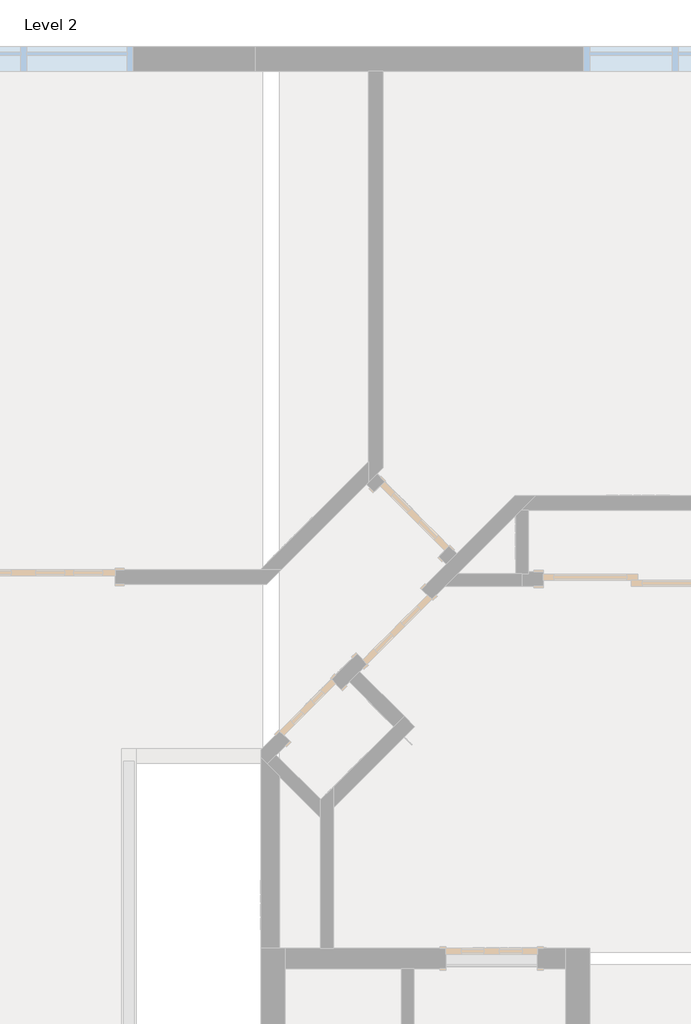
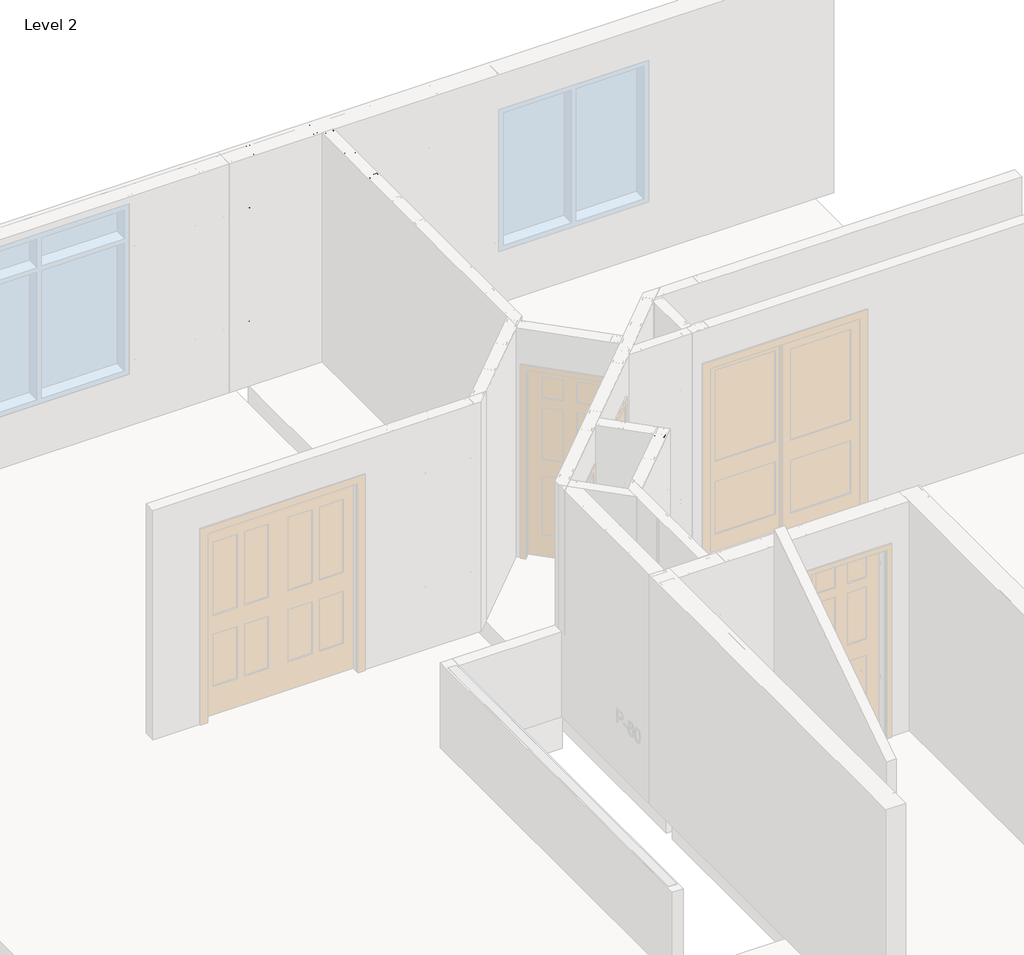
# One storey, part 38 of 46: 6 columns, 1 fastener.
"""IFC4 building model written with IfcOpenShell, lengths in millimetres."""

from ifc_helpers import new_model, si_unit, point, frame, origin, place, context, project, spatial, circle_curve, ellipse_curve, trimmed, transform, mapped, element, save
from ifc_brep_helpers import plane_surface, extruded_surface, advanced_brep
from components import panellabel_d99a6170

model = new_model("IFC4")

# Units and contexts
model_context = context("Model", 3, world=origin())
ifc_project = project(units=[si_unit("LENGTHUNIT", "METRE", prefix="MILLI")], contexts=[model_context])

# Site, building, storey
site = spatial("IfcSite", under=ifc_project)
building = spatial("IfcBuilding", under=site)
storey = spatial("IfcBuildingStorey", under=building, Name="Level 2", Elevation=3060.7)

# Columns
placement = place(None, origin())
element("IfcColumn", 1, ObjectType="BIMSF-SSMA-S-Column : 350NF150-33", at=placement, inside=storey, context=model_context, shape_type="AdvancedBrep", body=[
    advanced_brep(
    [(-8208.0235524, 13865.352221, 3061.5929687), (-8119.1235524, 13865.352221, 3061.5929687), (-8119.1235524, 13827.252221, 3061.5929687), (-8124.7810682, 13827.252221, 3061.5929687), (-8124.7810682, 13828.1345367, 3061.5929687), (-8120.0058682, 13828.1345367, 3061.5929687), (-8120.0058682, 13864.4699052, 3061.5929687), (-8207.1412366, 13864.4699052, 3061.5929687), (-8207.1412366, 13828.1345367, 3061.5929687), (-8202.3660366, 13828.1345367, 3061.5929687), (-8202.3660366, 13827.252221, 3061.5929687), (-8208.0235524, 13827.252221, 3061.5929687), (-8208.0235524, 13865.352221, 5523.6070313), (-8119.1235524, 13865.352221, 5523.6070313), (-8150.8735524, 13865.352221, 3671.1929688), (-8176.2735524, 13865.352221, 3671.1929688), (-8150.8735524, 13865.352221, 4890.3929687), (-8176.2735524, 13865.352221, 4890.3929687), (-8119.1235524, 13827.252221, 5523.6070313), (-8124.7810682, 13827.252221, 5523.6070313), (-8124.7810682, 13828.1345367, 5523.6070313), (-8120.0058682, 13828.1345367, 5523.6070313), (-8120.0058682, 13864.4699052, 5523.6070313), (-8207.1412366, 13864.4699052, 5523.6070313), (-8176.2735524, 13864.4699052, 3671.1929688), (-8150.8735524, 13864.4699052, 3671.1929688), (-8176.2735524, 13864.4699052, 4890.3929687), (-8150.8735524, 13864.4699052, 4890.3929687), (-8207.1412366, 13828.1345367, 5523.6070313), (-8202.3660366, 13828.1345367, 5523.6070313), (-8202.3660366, 13827.252221, 5523.6070313), (-8208.0235524, 13827.252221, 5523.6070313)],
    [
        (0, 1),
        (1, 2),
        (2, 3),
        (3, 4),
        (4, 5),
        (5, 6),
        (6, 7),
        (7, 8),
        (8, 9),
        (9, 10),
        (10, 11),
        (11, 0),
        (0, 12),
        (12, 13),
        (13, 1),
        (14, 15, circle_curve(frame((-8163.5735524, 13865.352221, 3671.1929688), z_axis=(0.0, -1.0, 0.0), x_axis=(1.0, 0.0, 0.0)), 12.7)),
        (15, 14, circle_curve(frame((-8163.5735524, 13865.352221, 3671.1929688), z_axis=(0.0, -1.0, 0.0), x_axis=(1.0, 0.0, 0.0)), 12.7)),
        (16, 17, circle_curve(frame((-8163.5735524, 13865.352221, 4890.3929687), z_axis=(0.0, -1.0, 0.0), x_axis=(1.0, 0.0, 0.0)), 12.7)),
        (17, 16, circle_curve(frame((-8163.5735524, 13865.352221, 4890.3929687), z_axis=(0.0, -1.0, 0.0), x_axis=(1.0, 0.0, 0.0)), 12.7)),
        (13, 18),
        (18, 2),
        (18, 19),
        (19, 3),
        (19, 20),
        (20, 4),
        (20, 21),
        (21, 5),
        (21, 22),
        (22, 6),
        (22, 23),
        (23, 7),
        (24, 25, circle_curve(frame((-8163.5735524, 13864.4699052, 3671.1929688), z_axis=(0.0, 1.0, 0.0), x_axis=(1.0, 0.0, 0.0)), 12.7)),
        (25, 24, circle_curve(frame((-8163.5735524, 13864.4699052, 3671.1929688), z_axis=(0.0, 1.0, 0.0), x_axis=(1.0, 0.0, 0.0)), 12.7)),
        (26, 27, circle_curve(frame((-8163.5735524, 13864.4699052, 4890.3929687), z_axis=(0.0, 1.0, 0.0), x_axis=(1.0, 0.0, 0.0)), 12.7)),
        (27, 26, circle_curve(frame((-8163.5735524, 13864.4699052, 4890.3929687), z_axis=(0.0, 1.0, 0.0), x_axis=(1.0, 0.0, 0.0)), 12.7)),
        (23, 28),
        (28, 8),
        (28, 29),
        (29, 9),
        (29, 30),
        (30, 10),
        (30, 31),
        (31, 11),
        (31, 12),
        (24, 15),
        (14, 25),
        (26, 17),
        (16, 27),
    ],
    [
        plane_surface(frame((-8208.0235524, 13865.352221, 3061.5929687), z_axis=(0.0, 0.0, -1.0), x_axis=(0.0, 1.0, 0.0))),
        plane_surface(frame((-8119.1235524, 13865.352221, 5523.6070313), z_axis=(0.0, 1.0, 0.0), x_axis=(0.0, 0.0, -1.0))),
        plane_surface(frame((-8119.1235524, 13827.252221, 5523.6070313), z_axis=(1.0, 0.0, 0.0), x_axis=(0.0, 0.0, -1.0))),
        plane_surface(frame((-8124.7810682, 13827.252221, 5523.6070313), z_axis=(0.0, -1.0, 0.0), x_axis=(0.0, 0.0, -1.0))),
        plane_surface(frame((-8124.7810682, 13828.1345367, 5523.6070313), z_axis=(-1.0, 0.0, 0.0), x_axis=(0.0, 0.0, -1.0))),
        plane_surface(frame((-8120.0058682, 13828.1345367, 5523.6070313), z_axis=(0.0, 1.0, 0.0), x_axis=(0.0, 0.0, -1.0))),
        plane_surface(frame((-8120.0058682, 13864.4699052, 5523.6070313), z_axis=(-1.0, 0.0, 0.0), x_axis=(0.0, 0.0, -1.0))),
        plane_surface(frame((-8207.1412366, 13864.4699052, 5523.6070313), z_axis=(0.0, -1.0, 0.0), x_axis=(0.0, 0.0, -1.0))),
        plane_surface(frame((-8207.1412366, 13828.1345367, 5523.6070313), z_axis=(1.0, 0.0, 0.0), x_axis=(0.0, 0.0, -1.0))),
        plane_surface(frame((-8202.3660366, 13828.1345367, 5523.6070313), z_axis=(0.0, 1.0, 0.0), x_axis=(0.0, 0.0, -1.0))),
        plane_surface(frame((-8202.3660366, 13827.252221, 5523.6070313), z_axis=(1.0, 0.0, 0.0), x_axis=(0.0, 0.0, -1.0))),
        plane_surface(frame((-8208.0235524, 13827.252221, 5523.6070313), z_axis=(0.0, -1.0, 0.0), x_axis=(0.0, 0.0, -1.0))),
        plane_surface(frame((-8208.0235524, 13865.352221, 5523.6070313), z_axis=(-1.0, 0.0, 0.0), x_axis=(0.0, 0.0, -1.0))),
        plane_surface(frame((-8208.0235524, 13865.352221, 5523.6070313), z_axis=(0.0, 0.0, 1.0), x_axis=(0.0, -1.0, 0.0))),
        extruded_surface(trimmed(ellipse_curve(frame((-8163.5735524, 11384.2881585, 3671.1929688), z_axis=(0.0, 1.0, 0.0), x_axis=(1.0, 0.0, 0.0)), 12.7, 12.7), [point((-8176.2735524, 11384.2881585, 3671.1929688))], [point((-8150.8735524, 11384.2881585, 3671.1929688))], True, "CARTESIAN"), (0.0, -4924.028125, 0.0), 4924.028125),
        extruded_surface(trimmed(ellipse_curve(frame((-8163.5735524, 11384.2881585, 3671.1929688), z_axis=(0.0, 1.0, 0.0), x_axis=(1.0, 0.0, 0.0)), 12.7, 12.7), [point((-8150.8735524, 11384.2881585, 3671.1929688))], [point((-8176.2735524, 11384.2881585, 3671.1929688))], True, "CARTESIAN"), (0.0, -4924.028125, 0.0), 4924.028125),
        extruded_surface(trimmed(ellipse_curve(frame((-8163.5735524, 11384.2881585, 4890.3929687), z_axis=(0.0, 1.0, 0.0), x_axis=(1.0, 0.0, 0.0)), 12.7, 12.7), [point((-8176.2735524, 11384.2881585, 4890.3929687))], [point((-8150.8735524, 11384.2881585, 4890.3929687))], True, "CARTESIAN"), (0.0, -4924.028125, 0.0), 4924.028125),
        extruded_surface(trimmed(ellipse_curve(frame((-8163.5735524, 11384.2881585, 4890.3929687), z_axis=(0.0, 1.0, 0.0), x_axis=(1.0, 0.0, 0.0)), 12.7, 12.7), [point((-8150.8735524, 11384.2881585, 4890.3929687))], [point((-8176.2735524, 11384.2881585, 4890.3929687))], True, "CARTESIAN"), (0.0, -4924.028125, 0.0), 4924.028125),
    ],
    [
        (0, [[1, 2, 3, 4, 5, 6, 7, 8, 9, 10, 11, 12]]),
        (1, [[-1, 13, 14, 15], [16, 17], [18, 19]]),
        (2, [[-2, -15, 20, 21]]),
        (3, [[-3, -21, 22, 23]]),
        (4, [[-4, -23, 24, 25]]),
        (5, [[-5, -25, 26, 27]]),
        (6, [[-6, -27, 28, 29]]),
        (7, [[-7, -29, 30, 31], [32, 33], [34, 35]]),
        (8, [[-8, -31, 36, 37]]),
        (9, [[-9, -37, 38, 39]]),
        (10, [[-10, -39, 40, 41]]),
        (11, [[-11, -41, 42, 43]]),
        (12, [[-12, -43, 44, -13]]),
        (13, [[-14, -44, -42, -40, -38, -36, -30, -28, -26, -24, -22, -20]]),
        (14, [[45, -16, 46, -32]]),
        (15, [[-45, -33, -46, -17]]),
        (16, [[47, -18, 48, -34]]),
        (17, [[-47, -35, -48, -19]]),
    ],
),
])
element("IfcColumn", 2, ObjectType="BIMSF-SSMA-S-Column : 350NF150-33", at=placement, inside=storey, context=model_context, shape_type="AdvancedBrep", body=[
    advanced_brep(
    [(-8208.0235524, 13478.002221, 3061.5929687), (-8119.1235524, 13478.002221, 3061.5929687), (-8119.1235524, 13439.902221, 3061.5929687), (-8124.7810682, 13439.902221, 3061.5929687), (-8124.7810682, 13440.7845367, 3061.5929687), (-8120.0058682, 13440.7845367, 3061.5929687), (-8120.0058682, 13477.1199052, 3061.5929687), (-8207.1412366, 13477.1199052, 3061.5929687), (-8207.1412366, 13440.7845367, 3061.5929687), (-8202.3660366, 13440.7845367, 3061.5929687), (-8202.3660366, 13439.902221, 3061.5929687), (-8208.0235524, 13439.902221, 3061.5929687), (-8208.0235524, 13478.002221, 5523.6070313), (-8119.1235524, 13478.002221, 5523.6070313), (-8150.8735524, 13478.002221, 3671.1929688), (-8176.2735524, 13478.002221, 3671.1929688), (-8150.8735524, 13478.002221, 4890.3929687), (-8176.2735524, 13478.002221, 4890.3929687), (-8119.1235524, 13439.902221, 5523.6070313), (-8124.7810682, 13439.902221, 5523.6070313), (-8124.7810682, 13440.7845367, 5523.6070313), (-8120.0058682, 13440.7845367, 5523.6070313), (-8120.0058682, 13477.1199052, 5523.6070313), (-8207.1412366, 13477.1199052, 5523.6070313), (-8176.2735524, 13477.1199052, 3671.1929688), (-8150.8735524, 13477.1199052, 3671.1929688), (-8176.2735524, 13477.1199052, 4890.3929687), (-8150.8735524, 13477.1199052, 4890.3929687), (-8207.1412366, 13440.7845367, 5523.6070313), (-8202.3660366, 13440.7845367, 5523.6070313), (-8202.3660366, 13439.902221, 5523.6070313), (-8208.0235524, 13439.902221, 5523.6070313)],
    [
        (0, 1),
        (1, 2),
        (2, 3),
        (3, 4),
        (4, 5),
        (5, 6),
        (6, 7),
        (7, 8),
        (8, 9),
        (9, 10),
        (10, 11),
        (11, 0),
        (0, 12),
        (12, 13),
        (13, 1),
        (14, 15, circle_curve(frame((-8163.5735524, 13478.002221, 3671.1929688), z_axis=(0.0, -1.0, 0.0), x_axis=(1.0, 0.0, 0.0)), 12.7)),
        (15, 14, circle_curve(frame((-8163.5735524, 13478.002221, 3671.1929688), z_axis=(0.0, -1.0, 0.0), x_axis=(1.0, 0.0, 0.0)), 12.7)),
        (16, 17, circle_curve(frame((-8163.5735524, 13478.002221, 4890.3929687), z_axis=(0.0, -1.0, 0.0), x_axis=(1.0, 0.0, 0.0)), 12.7)),
        (17, 16, circle_curve(frame((-8163.5735524, 13478.002221, 4890.3929687), z_axis=(0.0, -1.0, 0.0), x_axis=(1.0, 0.0, 0.0)), 12.7)),
        (13, 18),
        (18, 2),
        (18, 19),
        (19, 3),
        (19, 20),
        (20, 4),
        (20, 21),
        (21, 5),
        (21, 22),
        (22, 6),
        (22, 23),
        (23, 7),
        (24, 25, circle_curve(frame((-8163.5735524, 13477.1199052, 3671.1929688), z_axis=(0.0, 1.0, 0.0), x_axis=(1.0, 0.0, 0.0)), 12.7)),
        (25, 24, circle_curve(frame((-8163.5735524, 13477.1199052, 3671.1929688), z_axis=(0.0, 1.0, 0.0), x_axis=(1.0, 0.0, 0.0)), 12.7)),
        (26, 27, circle_curve(frame((-8163.5735524, 13477.1199052, 4890.3929687), z_axis=(0.0, 1.0, 0.0), x_axis=(1.0, 0.0, 0.0)), 12.7)),
        (27, 26, circle_curve(frame((-8163.5735524, 13477.1199052, 4890.3929687), z_axis=(0.0, 1.0, 0.0), x_axis=(1.0, 0.0, 0.0)), 12.7)),
        (23, 28),
        (28, 8),
        (28, 29),
        (29, 9),
        (29, 30),
        (30, 10),
        (30, 31),
        (31, 11),
        (31, 12),
        (24, 15),
        (14, 25),
        (26, 17),
        (16, 27),
    ],
    [
        plane_surface(frame((-8208.0235524, 13478.002221, 3061.5929687), z_axis=(0.0, 0.0, -1.0), x_axis=(0.0, 1.0, 0.0))),
        plane_surface(frame((-8119.1235524, 13478.002221, 5523.6070313), z_axis=(0.0, 1.0, 0.0), x_axis=(0.0, 0.0, -1.0))),
        plane_surface(frame((-8119.1235524, 13439.902221, 5523.6070313), z_axis=(1.0, 0.0, 0.0), x_axis=(0.0, 0.0, -1.0))),
        plane_surface(frame((-8124.7810682, 13439.902221, 5523.6070313), z_axis=(0.0, -1.0, 0.0), x_axis=(0.0, 0.0, -1.0))),
        plane_surface(frame((-8124.7810682, 13440.7845367, 5523.6070313), z_axis=(-1.0, 0.0, 0.0), x_axis=(0.0, 0.0, -1.0))),
        plane_surface(frame((-8120.0058682, 13440.7845367, 5523.6070313), z_axis=(0.0, 1.0, 0.0), x_axis=(0.0, 0.0, -1.0))),
        plane_surface(frame((-8120.0058682, 13477.1199052, 5523.6070313), z_axis=(-1.0, 0.0, 0.0), x_axis=(0.0, 0.0, -1.0))),
        plane_surface(frame((-8207.1412366, 13477.1199052, 5523.6070313), z_axis=(0.0, -1.0, 0.0), x_axis=(0.0, 0.0, -1.0))),
        plane_surface(frame((-8207.1412366, 13440.7845367, 5523.6070313), z_axis=(1.0, 0.0, 0.0), x_axis=(0.0, 0.0, -1.0))),
        plane_surface(frame((-8202.3660366, 13440.7845367, 5523.6070313), z_axis=(0.0, 1.0, 0.0), x_axis=(0.0, 0.0, -1.0))),
        plane_surface(frame((-8202.3660366, 13439.902221, 5523.6070313), z_axis=(1.0, 0.0, 0.0), x_axis=(0.0, 0.0, -1.0))),
        plane_surface(frame((-8208.0235524, 13439.902221, 5523.6070313), z_axis=(0.0, -1.0, 0.0), x_axis=(0.0, 0.0, -1.0))),
        plane_surface(frame((-8208.0235524, 13478.002221, 5523.6070313), z_axis=(-1.0, 0.0, 0.0), x_axis=(0.0, 0.0, -1.0))),
        plane_surface(frame((-8208.0235524, 13478.002221, 5523.6070313), z_axis=(0.0, 0.0, 1.0), x_axis=(0.0, -1.0, 0.0))),
        extruded_surface(trimmed(ellipse_curve(frame((-8163.5735524, 10996.9381585, 3671.1929688), z_axis=(0.0, 1.0, 0.0), x_axis=(1.0, 0.0, 0.0)), 12.7, 12.7), [point((-8176.2735524, 10996.9381585, 3671.1929688))], [point((-8150.8735524, 10996.9381585, 3671.1929688))], True, "CARTESIAN"), (0.0, -4924.028124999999, 0.0), 4924.028124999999),
        extruded_surface(trimmed(ellipse_curve(frame((-8163.5735524, 10996.9381585, 3671.1929688), z_axis=(0.0, 1.0, 0.0), x_axis=(1.0, 0.0, 0.0)), 12.7, 12.7), [point((-8150.8735524, 10996.9381585, 3671.1929688))], [point((-8176.2735524, 10996.9381585, 3671.1929688))], True, "CARTESIAN"), (0.0, -4924.028124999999, 0.0), 4924.028124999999),
        extruded_surface(trimmed(ellipse_curve(frame((-8163.5735524, 10996.9381585, 4890.3929687), z_axis=(0.0, 1.0, 0.0), x_axis=(1.0, 0.0, 0.0)), 12.7, 12.7), [point((-8176.2735524, 10996.9381585, 4890.3929687))], [point((-8150.8735524, 10996.9381585, 4890.3929687))], True, "CARTESIAN"), (0.0, -4924.028124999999, 0.0), 4924.028124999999),
        extruded_surface(trimmed(ellipse_curve(frame((-8163.5735524, 10996.9381585, 4890.3929687), z_axis=(0.0, 1.0, 0.0), x_axis=(1.0, 0.0, 0.0)), 12.7, 12.7), [point((-8150.8735524, 10996.9381585, 4890.3929687))], [point((-8176.2735524, 10996.9381585, 4890.3929687))], True, "CARTESIAN"), (0.0, -4924.028124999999, 0.0), 4924.028124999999),
    ],
    [
        (0, [[1, 2, 3, 4, 5, 6, 7, 8, 9, 10, 11, 12]]),
        (1, [[-1, 13, 14, 15], [16, 17], [18, 19]]),
        (2, [[-2, -15, 20, 21]]),
        (3, [[-3, -21, 22, 23]]),
        (4, [[-4, -23, 24, 25]]),
        (5, [[-5, -25, 26, 27]]),
        (6, [[-6, -27, 28, 29]]),
        (7, [[-7, -29, 30, 31], [32, 33], [34, 35]]),
        (8, [[-8, -31, 36, 37]]),
        (9, [[-9, -37, 38, 39]]),
        (10, [[-10, -39, 40, 41]]),
        (11, [[-11, -41, 42, 43]]),
        (12, [[-12, -43, 44, -13]]),
        (13, [[-14, -44, -42, -40, -38, -36, -30, -28, -26, -24, -22, -20]]),
        (14, [[45, -16, 46, -32]]),
        (15, [[-45, -33, -46, -17]]),
        (16, [[47, -18, 48, -34]]),
        (17, [[-47, -35, -48, -19]]),
    ],
),
])
element("IfcColumn", 3, ObjectType="BIMSF-SSMA-S-Column : 350NF150-33", at=placement, inside=storey, context=model_context, shape_type="AdvancedBrep", body=[
    advanced_brep(
    [(-8208.0235524, 13071.602221, 3061.5929687), (-8119.1235524, 13071.602221, 3061.5929687), (-8119.1235524, 13033.502221, 3061.5929687), (-8124.7810682, 13033.502221, 3061.5929687), (-8124.7810682, 13034.3845367, 3061.5929687), (-8120.0058682, 13034.3845367, 3061.5929687), (-8120.0058682, 13070.7199052, 3061.5929687), (-8207.1412366, 13070.7199052, 3061.5929687), (-8207.1412366, 13034.3845367, 3061.5929687), (-8202.3660366, 13034.3845367, 3061.5929687), (-8202.3660366, 13033.502221, 3061.5929687), (-8208.0235524, 13033.502221, 3061.5929687), (-8208.0235524, 13071.602221, 5523.6070313), (-8119.1235524, 13071.602221, 5523.6070313), (-8150.8735524, 13071.602221, 3671.1929688), (-8176.2735524, 13071.602221, 3671.1929688), (-8150.8735524, 13071.602221, 4890.3929687), (-8176.2735524, 13071.602221, 4890.3929687), (-8119.1235524, 13033.502221, 5523.6070313), (-8124.7810682, 13033.502221, 5523.6070313), (-8124.7810682, 13034.3845367, 5523.6070313), (-8120.0058682, 13034.3845367, 5523.6070313), (-8120.0058682, 13070.7199052, 5523.6070313), (-8207.1412366, 13070.7199052, 5523.6070313), (-8176.2735524, 13070.7199052, 3671.1929688), (-8150.8735524, 13070.7199052, 3671.1929688), (-8176.2735524, 13070.7199052, 4890.3929687), (-8150.8735524, 13070.7199052, 4890.3929687), (-8207.1412366, 13034.3845367, 5523.6070313), (-8202.3660366, 13034.3845367, 5523.6070313), (-8202.3660366, 13033.502221, 5523.6070313), (-8208.0235524, 13033.502221, 5523.6070313)],
    [
        (0, 1),
        (1, 2),
        (2, 3),
        (3, 4),
        (4, 5),
        (5, 6),
        (6, 7),
        (7, 8),
        (8, 9),
        (9, 10),
        (10, 11),
        (11, 0),
        (0, 12),
        (12, 13),
        (13, 1),
        (14, 15, circle_curve(frame((-8163.5735524, 13071.602221, 3671.1929688), z_axis=(0.0, -1.0, 0.0), x_axis=(1.0, 0.0, 0.0)), 12.7)),
        (15, 14, circle_curve(frame((-8163.5735524, 13071.602221, 3671.1929688), z_axis=(0.0, -1.0, 0.0), x_axis=(1.0, 0.0, 0.0)), 12.7)),
        (16, 17, circle_curve(frame((-8163.5735524, 13071.602221, 4890.3929687), z_axis=(0.0, -1.0, 0.0), x_axis=(1.0, 0.0, 0.0)), 12.7)),
        (17, 16, circle_curve(frame((-8163.5735524, 13071.602221, 4890.3929687), z_axis=(0.0, -1.0, 0.0), x_axis=(1.0, 0.0, 0.0)), 12.7)),
        (13, 18),
        (18, 2),
        (18, 19),
        (19, 3),
        (19, 20),
        (20, 4),
        (20, 21),
        (21, 5),
        (21, 22),
        (22, 6),
        (22, 23),
        (23, 7),
        (24, 25, circle_curve(frame((-8163.5735524, 13070.7199052, 3671.1929688), z_axis=(0.0, 1.0, 0.0), x_axis=(1.0, 0.0, 0.0)), 12.7)),
        (25, 24, circle_curve(frame((-8163.5735524, 13070.7199052, 3671.1929688), z_axis=(0.0, 1.0, 0.0), x_axis=(1.0, 0.0, 0.0)), 12.7)),
        (26, 27, circle_curve(frame((-8163.5735524, 13070.7199052, 4890.3929687), z_axis=(0.0, 1.0, 0.0), x_axis=(1.0, 0.0, 0.0)), 12.7)),
        (27, 26, circle_curve(frame((-8163.5735524, 13070.7199052, 4890.3929687), z_axis=(0.0, 1.0, 0.0), x_axis=(1.0, 0.0, 0.0)), 12.7)),
        (23, 28),
        (28, 8),
        (28, 29),
        (29, 9),
        (29, 30),
        (30, 10),
        (30, 31),
        (31, 11),
        (31, 12),
        (24, 15),
        (14, 25),
        (26, 17),
        (16, 27),
    ],
    [
        plane_surface(frame((-8208.0235524, 13071.602221, 3061.5929687), z_axis=(0.0, 0.0, -1.0), x_axis=(0.0, 1.0, 0.0))),
        plane_surface(frame((-8119.1235524, 13071.602221, 5523.6070313), z_axis=(0.0, 1.0, 0.0), x_axis=(0.0, 0.0, -1.0))),
        plane_surface(frame((-8119.1235524, 13033.502221, 5523.6070313), z_axis=(1.0, 0.0, 0.0), x_axis=(0.0, 0.0, -1.0))),
        plane_surface(frame((-8124.7810682, 13033.502221, 5523.6070313), z_axis=(0.0, -1.0, 0.0), x_axis=(0.0, 0.0, -1.0))),
        plane_surface(frame((-8124.7810682, 13034.3845367, 5523.6070313), z_axis=(-1.0, 0.0, 0.0), x_axis=(0.0, 0.0, -1.0))),
        plane_surface(frame((-8120.0058682, 13034.3845367, 5523.6070313), z_axis=(0.0, 1.0, 0.0), x_axis=(0.0, 0.0, -1.0))),
        plane_surface(frame((-8120.0058682, 13070.7199052, 5523.6070313), z_axis=(-1.0, 0.0, 0.0), x_axis=(0.0, 0.0, -1.0))),
        plane_surface(frame((-8207.1412366, 13070.7199052, 5523.6070313), z_axis=(0.0, -1.0, 0.0), x_axis=(0.0, 0.0, -1.0))),
        plane_surface(frame((-8207.1412366, 13034.3845367, 5523.6070313), z_axis=(1.0, 0.0, 0.0), x_axis=(0.0, 0.0, -1.0))),
        plane_surface(frame((-8202.3660366, 13034.3845367, 5523.6070313), z_axis=(0.0, 1.0, 0.0), x_axis=(0.0, 0.0, -1.0))),
        plane_surface(frame((-8202.3660366, 13033.502221, 5523.6070313), z_axis=(1.0, 0.0, 0.0), x_axis=(0.0, 0.0, -1.0))),
        plane_surface(frame((-8208.0235524, 13033.502221, 5523.6070313), z_axis=(0.0, -1.0, 0.0), x_axis=(0.0, 0.0, -1.0))),
        plane_surface(frame((-8208.0235524, 13071.602221, 5523.6070313), z_axis=(-1.0, 0.0, 0.0), x_axis=(0.0, 0.0, -1.0))),
        plane_surface(frame((-8208.0235524, 13071.602221, 5523.6070313), z_axis=(0.0, 0.0, 1.0), x_axis=(0.0, -1.0, 0.0))),
        extruded_surface(trimmed(ellipse_curve(frame((-8163.5735524, 10590.5381585, 3671.1929688), z_axis=(0.0, 1.0, 0.0), x_axis=(1.0, 0.0, 0.0)), 12.7, 12.7), [point((-8176.2735524, 10590.5381585, 3671.1929688))], [point((-8150.8735524, 10590.5381585, 3671.1929688))], True, "CARTESIAN"), (0.0, -4924.028125, 0.0), 4924.028125),
        extruded_surface(trimmed(ellipse_curve(frame((-8163.5735524, 10590.5381585, 3671.1929688), z_axis=(0.0, 1.0, 0.0), x_axis=(1.0, 0.0, 0.0)), 12.7, 12.7), [point((-8150.8735524, 10590.5381585, 3671.1929688))], [point((-8176.2735524, 10590.5381585, 3671.1929688))], True, "CARTESIAN"), (0.0, -4924.028125, 0.0), 4924.028125),
        extruded_surface(trimmed(ellipse_curve(frame((-8163.5735524, 10590.5381585, 4890.3929687), z_axis=(0.0, 1.0, 0.0), x_axis=(1.0, 0.0, 0.0)), 12.7, 12.7), [point((-8176.2735524, 10590.5381585, 4890.3929687))], [point((-8150.8735524, 10590.5381585, 4890.3929687))], True, "CARTESIAN"), (0.0, -4924.028125, 0.0), 4924.028125),
        extruded_surface(trimmed(ellipse_curve(frame((-8163.5735524, 10590.5381585, 4890.3929687), z_axis=(0.0, 1.0, 0.0), x_axis=(1.0, 0.0, 0.0)), 12.7, 12.7), [point((-8150.8735524, 10590.5381585, 4890.3929687))], [point((-8176.2735524, 10590.5381585, 4890.3929687))], True, "CARTESIAN"), (0.0, -4924.028125, 0.0), 4924.028125),
    ],
    [
        (0, [[1, 2, 3, 4, 5, 6, 7, 8, 9, 10, 11, 12]]),
        (1, [[-1, 13, 14, 15], [16, 17], [18, 19]]),
        (2, [[-2, -15, 20, 21]]),
        (3, [[-3, -21, 22, 23]]),
        (4, [[-4, -23, 24, 25]]),
        (5, [[-5, -25, 26, 27]]),
        (6, [[-6, -27, 28, 29]]),
        (7, [[-7, -29, 30, 31], [32, 33], [34, 35]]),
        (8, [[-8, -31, 36, 37]]),
        (9, [[-9, -37, 38, 39]]),
        (10, [[-10, -39, 40, 41]]),
        (11, [[-11, -41, 42, 43]]),
        (12, [[-12, -43, 44, -13]]),
        (13, [[-14, -44, -42, -40, -38, -36, -30, -28, -26, -24, -22, -20]]),
        (14, [[45, -16, 46, -32]]),
        (15, [[-45, -33, -46, -17]]),
        (16, [[47, -18, 48, -34]]),
        (17, [[-47, -35, -48, -19]]),
    ],
),
])
element("IfcColumn", 4, ObjectType="BIMSF-SSMA-S-Column : 350NF150-33", at=placement, inside=storey, context=model_context, shape_type="AdvancedBrep", body=[
    advanced_brep(
    [(-7987.7873066, 8386.7022246, 3061.5929687), (-7924.9255138, 8323.8404317, 3061.5929687), (-7951.8662821, 8296.8996634, 3061.5929687), (-7955.8667499, 8300.9001312, 3061.5929687), (-7955.2428584, 8301.5240226, 3061.5929687), (-7951.8662821, 8298.1474463, 3061.5929687), (-7926.1732967, 8323.8404317, 3061.5929687), (-7987.7873066, 8385.4544416, 3061.5929687), (-8013.480292, 8359.7614562, 3061.5929687), (-8010.1037157, 8356.3848799, 3061.5929687), (-8010.7276072, 8355.7609884, 3061.5929687), (-8014.728075, 8359.7614562, 3061.5929687), (-7987.7873066, 8386.7022246, 5523.6070313), (-7924.9255138, 8323.8404317, 5523.6070313), (-7947.3761541, 8346.291072, 3671.1929688), (-7965.3366663, 8364.2515843, 3671.1929688), (-7947.3761541, 8346.291072, 4890.3929688), (-7965.3366663, 8364.2515843, 4890.3929688), (-7951.8662821, 8296.8996634, 5523.6070313), (-7955.8667499, 8300.9001312, 5523.6070313), (-7955.2428584, 8301.5240226, 5523.6070313), (-7951.8662821, 8298.1474463, 5523.6070313), (-7926.1732967, 8323.8404317, 5523.6070313), (-7987.7873066, 8385.4544416, 5523.6070313), (-7965.9605578, 8363.6276928, 3671.1929688), (-7948.0000455, 8345.6671806, 3671.1929688), (-7965.9605578, 8363.6276928, 4890.3929688), (-7948.0000455, 8345.6671806, 4890.3929688), (-8013.480292, 8359.7614562, 5523.6070313), (-8010.1037157, 8356.3848799, 5523.6070313), (-8010.7276072, 8355.7609884, 5523.6070313), (-8014.728075, 8359.7614562, 5523.6070313)],
    [
        (0, 1),
        (1, 2),
        (2, 3),
        (3, 4),
        (4, 5),
        (5, 6),
        (6, 7),
        (7, 8),
        (8, 9),
        (9, 10),
        (10, 11),
        (11, 0),
        (0, 12),
        (12, 13),
        (13, 1),
        (14, 15, circle_curve(frame((-7956.3564102, 8355.2713282, 3671.1929687), z_axis=(-0.7071067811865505, -0.7071067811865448, 0.0), x_axis=(0.7071067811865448, -0.7071067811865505, 0.0)), 12.7)),
        (15, 14, circle_curve(frame((-7956.3564102, 8355.2713282, 3671.1929687), z_axis=(-0.7071067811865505, -0.7071067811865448, 0.0), x_axis=(0.7071067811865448, -0.7071067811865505, 0.0)), 12.7)),
        (16, 17, circle_curve(frame((-7956.3564102, 8355.2713282, 4890.3929687), z_axis=(-0.7071067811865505, -0.7071067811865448, 0.0), x_axis=(0.7071067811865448, -0.7071067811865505, 0.0)), 12.7)),
        (17, 16, circle_curve(frame((-7956.3564102, 8355.2713282, 4890.3929687), z_axis=(-0.7071067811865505, -0.7071067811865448, 0.0), x_axis=(0.7071067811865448, -0.7071067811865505, 0.0)), 12.7)),
        (13, 18),
        (18, 2),
        (18, 19),
        (19, 3),
        (19, 20),
        (20, 4),
        (20, 21),
        (21, 5),
        (21, 22),
        (22, 6),
        (22, 23),
        (23, 7),
        (24, 25, circle_curve(frame((-7956.9803017, 8354.6474367, 3671.1929688), z_axis=(0.7071067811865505, 0.7071067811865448, 0.0), x_axis=(0.7071067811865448, -0.7071067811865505, 0.0)), 12.7)),
        (25, 24, circle_curve(frame((-7956.9803017, 8354.6474367, 3671.1929688), z_axis=(0.7071067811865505, 0.7071067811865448, 0.0), x_axis=(0.7071067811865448, -0.7071067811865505, 0.0)), 12.7)),
        (26, 27, circle_curve(frame((-7956.9803017, 8354.6474367, 4890.3929687), z_axis=(0.7071067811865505, 0.7071067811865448, 0.0), x_axis=(0.7071067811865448, -0.7071067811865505, 0.0)), 12.7)),
        (27, 26, circle_curve(frame((-7956.9803017, 8354.6474367, 4890.3929687), z_axis=(0.7071067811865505, 0.7071067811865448, 0.0), x_axis=(0.7071067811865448, -0.7071067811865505, 0.0)), 12.7)),
        (23, 28),
        (28, 8),
        (28, 29),
        (29, 9),
        (29, 30),
        (30, 10),
        (30, 31),
        (31, 11),
        (31, 12),
        (24, 15),
        (14, 25),
        (26, 17),
        (16, 27),
    ],
    [
        plane_surface(frame((-7987.7873066, 8386.7022246, 3061.5929687), z_axis=(0.0, 0.0, -1.0), x_axis=(0.707106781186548, 0.707106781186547, 0.0))),
        plane_surface(frame((-7924.9255138, 8323.8404317, 5523.6070313), z_axis=(0.7071067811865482, 0.707106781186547, 0.0), x_axis=(0.0, 0.0, -1.0))),
        plane_surface(frame((-7951.8662821, 8296.8996634, 5523.6070313), z_axis=(0.707106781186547, -0.7071067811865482, 0.0), x_axis=(0.0, 0.0, -1.0))),
        plane_surface(frame((-7955.8667499, 8300.9001312, 5523.6070313), z_axis=(-0.7071067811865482, -0.707106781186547, 0.0), x_axis=(0.0, 0.0, -1.0))),
        plane_surface(frame((-7955.2428584, 8301.5240226, 5523.6070313), z_axis=(-0.707106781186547, 0.7071067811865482, 0.0), x_axis=(0.0, 0.0, -1.0))),
        plane_surface(frame((-7951.8662821, 8298.1474463, 5523.6070313), z_axis=(0.7071067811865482, 0.707106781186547, 0.0), x_axis=(0.0, 0.0, -1.0))),
        plane_surface(frame((-7926.1732967, 8323.8404317, 5523.6070313), z_axis=(-0.707106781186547, 0.707106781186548, 0.0), x_axis=(0.0, 0.0, -1.0))),
        plane_surface(frame((-7987.7873066, 8385.4544416, 5523.6070313), z_axis=(-0.7071067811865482, -0.707106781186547, 0.0), x_axis=(0.0, 0.0, -1.0))),
        plane_surface(frame((-8013.480292, 8359.7614562, 5523.6070313), z_axis=(0.707106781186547, -0.7071067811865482, 0.0), x_axis=(0.0, 0.0, -1.0))),
        plane_surface(frame((-8010.1037157, 8356.3848799, 5523.6070313), z_axis=(0.7071067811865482, 0.707106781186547, 0.0), x_axis=(0.0, 0.0, -1.0))),
        plane_surface(frame((-8010.7276072, 8355.7609884, 5523.6070313), z_axis=(0.707106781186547, -0.7071067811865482, 0.0), x_axis=(0.0, 0.0, -1.0))),
        plane_surface(frame((-8014.728075, 8359.7614562, 5523.6070313), z_axis=(-0.7071067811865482, -0.707106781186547, 0.0), x_axis=(0.0, 0.0, -1.0))),
        plane_surface(frame((-7987.7873066, 8386.7022246, 5523.6070313), z_axis=(-0.707106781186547, 0.707106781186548, 0.0), x_axis=(0.0, 0.0, -1.0))),
        plane_surface(frame((-7987.7873066, 8386.7022246, 5523.6070313), z_axis=(0.0, 0.0, 1.0), x_axis=(-0.707106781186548, -0.707106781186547, 0.0))),
        extruded_surface(trimmed(ellipse_curve(frame((-9710.7336333, 6600.894105, 3671.1929688), z_axis=(0.7071067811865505, 0.7071067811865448, 0.0), x_axis=(0.7071067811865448, -0.7071067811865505, 0.0)), 12.7, 12.7), [point((-9719.7138895, 6609.8743611, 3671.1929688))], [point((-9701.7533772, 6591.9138489, 3671.1929688))], True, "CARTESIAN"), (-3481.8136780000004, -3481.8136779, 0.0), 4924.028125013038),
        extruded_surface(trimmed(ellipse_curve(frame((-9710.7336333, 6600.894105, 3671.1929688), z_axis=(0.7071067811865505, 0.7071067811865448, 0.0), x_axis=(0.7071067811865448, -0.7071067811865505, 0.0)), 12.7, 12.7), [point((-9701.7533772, 6591.9138489, 3671.1929688))], [point((-9719.7138895, 6609.8743611, 3671.1929688))], True, "CARTESIAN"), (-3481.8136780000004, -3481.8136779, 0.0), 4924.028125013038),
        extruded_surface(trimmed(ellipse_curve(frame((-9710.7336333, 6600.894105, 4890.3929687), z_axis=(0.7071067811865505, 0.7071067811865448, 0.0), x_axis=(0.7071067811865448, -0.7071067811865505, 0.0)), 12.7, 12.7), [point((-9719.7138895, 6609.8743611, 4890.3929687))], [point((-9701.7533772, 6591.9138489, 4890.3929687))], True, "CARTESIAN"), (-3481.8136780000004, -3481.8136779, 0.0), 4924.028125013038),
        extruded_surface(trimmed(ellipse_curve(frame((-9710.7336333, 6600.894105, 4890.3929687), z_axis=(0.7071067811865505, 0.7071067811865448, 0.0), x_axis=(0.7071067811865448, -0.7071067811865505, 0.0)), 12.7, 12.7), [point((-9701.7533772, 6591.9138489, 4890.3929687))], [point((-9719.7138895, 6609.8743611, 4890.3929687))], True, "CARTESIAN"), (-3481.8136780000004, -3481.8136779, 0.0), 4924.028125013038),
    ],
    [
        (0, [[1, 2, 3, 4, 5, 6, 7, 8, 9, 10, 11, 12]]),
        (1, [[-1, 13, 14, 15], [16, 17], [18, 19]]),
        (2, [[-2, -15, 20, 21]]),
        (3, [[-3, -21, 22, 23]]),
        (4, [[-4, -23, 24, 25]]),
        (5, [[-5, -25, 26, 27]]),
        (6, [[-6, -27, 28, 29]]),
        (7, [[-7, -29, 30, 31], [32, 33], [34, 35]]),
        (8, [[-8, -31, 36, 37]]),
        (9, [[-9, -37, 38, 39]]),
        (10, [[-10, -39, 40, 41]]),
        (11, [[-11, -41, 42, 43]]),
        (12, [[-12, -43, 44, -13]]),
        (13, [[-14, -44, -42, -40, -38, -36, -30, -28, -26, -24, -22, -20]]),
        (14, [[45, -16, 46, -32]]),
        (15, [[-45, -33, -46, -17]]),
        (16, [[47, -18, 48, -34]]),
        (17, [[-47, -35, -48, -19]]),
    ],
),
])
element("IfcColumn", 5, ObjectType="BIMSF-SSMA-S-Column : 550NF150-43", at=placement, inside=storey, context=model_context, shape_type="AdvancedBrep", body=[
    advanced_brep(
    [(-8907.8889911, 13865.352221, 3061.5929687), (-8907.8889911, 14005.052221, 3061.5929687), (-8869.7889911, 14005.052221, 3061.5929687), (-8869.7889911, 13999.1273367, 3061.5929687), (-8870.9386753, 13999.1273367, 3061.5929687), (-8870.9386753, 14003.9025367, 3061.5929687), (-8906.7393069, 14003.9025367, 3061.5929687), (-8906.7393069, 13866.5019052, 3061.5929687), (-8870.9386753, 13866.5019052, 3061.5929687), (-8870.9386753, 13871.2771052, 3061.5929687), (-8869.7889911, 13871.2771052, 3061.5929687), (-8869.7889911, 13865.352221, 3061.5929687), (-8907.8889911, 13865.352221, 5523.6070313), (-8907.8889911, 14005.052221, 5523.6070313), (-8907.8889911, 13947.902221, 3671.1929688), (-8907.8889911, 13922.502221, 3671.1929688), (-8907.8889911, 13947.902221, 4890.3929687), (-8907.8889911, 13922.502221, 4890.3929687), (-8869.7889911, 14005.052221, 5523.6070313), (-8869.7889911, 13999.1273367, 5523.6070313), (-8870.9386753, 13999.1273367, 5523.6070313), (-8870.9386753, 14003.9025367, 5523.6070313), (-8906.7393069, 14003.9025367, 5523.6070313), (-8906.7393069, 13866.5019052, 5523.6070313), (-8906.7393069, 13922.502221, 3671.1929688), (-8906.7393069, 13947.902221, 3671.1929688), (-8906.7393069, 13922.502221, 4890.3929687), (-8906.7393069, 13947.902221, 4890.3929687), (-8870.9386753, 13866.5019052, 5523.6070313), (-8870.9386753, 13871.2771052, 5523.6070313), (-8869.7889911, 13871.2771052, 5523.6070313), (-8869.7889911, 13865.352221, 5523.6070313)],
    [
        (0, 1),
        (1, 2),
        (2, 3),
        (3, 4),
        (4, 5),
        (5, 6),
        (6, 7),
        (7, 8),
        (8, 9),
        (9, 10),
        (10, 11),
        (11, 0),
        (0, 12),
        (12, 13),
        (13, 1),
        (14, 15, circle_curve(frame((-8907.8889911, 13935.202221, 3671.1929687), z_axis=(1.0, 0.0, 0.0), x_axis=(0.0, 1.0, 0.0)), 12.7)),
        (15, 14, circle_curve(frame((-8907.8889911, 13935.202221, 3671.1929687), z_axis=(1.0, 0.0, 0.0), x_axis=(0.0, 1.0, 0.0)), 12.7)),
        (16, 17, circle_curve(frame((-8907.8889911, 13935.202221, 4890.3929687), z_axis=(1.0, 0.0, 0.0), x_axis=(0.0, 1.0, 0.0)), 12.7)),
        (17, 16, circle_curve(frame((-8907.8889911, 13935.202221, 4890.3929687), z_axis=(1.0, 0.0, 0.0), x_axis=(0.0, 1.0, 0.0)), 12.7)),
        (13, 18),
        (18, 2),
        (18, 19),
        (19, 3),
        (19, 20),
        (20, 4),
        (20, 21),
        (21, 5),
        (21, 22),
        (22, 6),
        (22, 23),
        (23, 7),
        (24, 25, circle_curve(frame((-8906.7393069, 13935.202221, 3671.1929687), z_axis=(-1.0, 0.0, 0.0), x_axis=(0.0, 1.0, 0.0)), 12.7)),
        (25, 24, circle_curve(frame((-8906.7393069, 13935.202221, 3671.1929687), z_axis=(-1.0, 0.0, 0.0), x_axis=(0.0, 1.0, 0.0)), 12.7)),
        (26, 27, circle_curve(frame((-8906.7393069, 13935.202221, 4890.3929687), z_axis=(-1.0, 0.0, 0.0), x_axis=(0.0, 1.0, 0.0)), 12.7)),
        (27, 26, circle_curve(frame((-8906.7393069, 13935.202221, 4890.3929687), z_axis=(-1.0, 0.0, 0.0), x_axis=(0.0, 1.0, 0.0)), 12.7)),
        (23, 28),
        (28, 8),
        (28, 29),
        (29, 9),
        (29, 30),
        (30, 10),
        (30, 31),
        (31, 11),
        (31, 12),
        (24, 15),
        (14, 25),
        (26, 17),
        (16, 27),
    ],
    [
        plane_surface(frame((-8907.8889911, 13865.352221, 3061.5929687), z_axis=(0.0, 0.0, -1.0), x_axis=(-1.0, 0.0, 0.0))),
        plane_surface(frame((-8907.8889911, 14005.052221, 5523.6070313), z_axis=(-1.0, 0.0, 0.0), x_axis=(0.0, 0.0, -1.0))),
        plane_surface(frame((-8869.7889911, 14005.052221, 5523.6070313), z_axis=(0.0, 1.0, 0.0), x_axis=(0.0, 0.0, -1.0))),
        plane_surface(frame((-8869.7889911, 13999.1273367, 5523.6070313), z_axis=(1.0, 0.0, 0.0), x_axis=(0.0, 0.0, -1.0))),
        plane_surface(frame((-8870.9386753, 13999.1273367, 5523.6070313), z_axis=(0.0, -1.0, 0.0), x_axis=(0.0, 0.0, -1.0))),
        plane_surface(frame((-8870.9386753, 14003.9025367, 5523.6070313), z_axis=(-1.0, 0.0, 0.0), x_axis=(0.0, 0.0, -1.0))),
        plane_surface(frame((-8906.7393069, 14003.9025367, 5523.6070313), z_axis=(0.0, -1.0, 0.0), x_axis=(0.0, 0.0, -1.0))),
        plane_surface(frame((-8906.7393069, 13866.5019052, 5523.6070313), z_axis=(1.0, 0.0, 0.0), x_axis=(0.0, 0.0, -1.0))),
        plane_surface(frame((-8870.9386753, 13866.5019052, 5523.6070313), z_axis=(0.0, 1.0, 0.0), x_axis=(0.0, 0.0, -1.0))),
        plane_surface(frame((-8870.9386753, 13871.2771052, 5523.6070313), z_axis=(-1.0, 0.0, 0.0), x_axis=(0.0, 0.0, -1.0))),
        plane_surface(frame((-8869.7889911, 13871.2771052, 5523.6070313), z_axis=(0.0, 1.0, 0.0), x_axis=(0.0, 0.0, -1.0))),
        plane_surface(frame((-8869.7889911, 13865.352221, 5523.6070313), z_axis=(1.0, 0.0, 0.0), x_axis=(0.0, 0.0, -1.0))),
        plane_surface(frame((-8907.8889911, 13865.352221, 5523.6070313), z_axis=(0.0, -1.0, 0.0), x_axis=(0.0, 0.0, -1.0))),
        plane_surface(frame((-8907.8889911, 13865.352221, 5523.6070313), z_axis=(0.0, 0.0, 1.0), x_axis=(1.0, 0.0, 0.0))),
        extruded_surface(trimmed(ellipse_curve(frame((-6426.8249286, 13935.202221, 3671.1929688), z_axis=(-1.0, 0.0, 0.0), x_axis=(0.0, 1.0, 0.0)), 12.7, 12.7), [point((-6426.8249286, 13922.502221, 3671.1929688))], [point((-6426.8249286, 13947.902221, 3671.1929688))], True, "CARTESIAN"), (4924.028125, 0.0, 0.0), 4924.028125),
        extruded_surface(trimmed(ellipse_curve(frame((-6426.8249286, 13935.202221, 3671.1929688), z_axis=(-1.0, 0.0, 0.0), x_axis=(0.0, 1.0, 0.0)), 12.7, 12.7), [point((-6426.8249286, 13947.902221, 3671.1929688))], [point((-6426.8249286, 13922.502221, 3671.1929688))], True, "CARTESIAN"), (4924.028125, 0.0, 0.0), 4924.028125),
        extruded_surface(trimmed(ellipse_curve(frame((-6426.8249286, 13935.202221, 4890.3929687), z_axis=(-1.0, 0.0, 0.0), x_axis=(0.0, 1.0, 0.0)), 12.7, 12.7), [point((-6426.8249286, 13922.502221, 4890.3929687))], [point((-6426.8249286, 13947.902221, 4890.3929687))], True, "CARTESIAN"), (4924.028125, 0.0, 0.0), 4924.028125),
        extruded_surface(trimmed(ellipse_curve(frame((-6426.8249286, 13935.202221, 4890.3929687), z_axis=(-1.0, 0.0, 0.0), x_axis=(0.0, 1.0, 0.0)), 12.7, 12.7), [point((-6426.8249286, 13947.902221, 4890.3929687))], [point((-6426.8249286, 13922.502221, 4890.3929687))], True, "CARTESIAN"), (4924.028125, 0.0, 0.0), 4924.028125),
    ],
    [
        (0, [[1, 2, 3, 4, 5, 6, 7, 8, 9, 10, 11, 12]]),
        (1, [[-1, 13, 14, 15], [16, 17], [18, 19]]),
        (2, [[-2, -15, 20, 21]]),
        (3, [[-3, -21, 22, 23]]),
        (4, [[-4, -23, 24, 25]]),
        (5, [[-5, -25, 26, 27]]),
        (6, [[-6, -27, 28, 29]]),
        (7, [[-7, -29, 30, 31], [32, 33], [34, 35]]),
        (8, [[-8, -31, 36, 37]]),
        (9, [[-9, -37, 38, 39]]),
        (10, [[-10, -39, 40, 41]]),
        (11, [[-11, -41, 42, 43]]),
        (12, [[-12, -43, 44, -13]]),
        (13, [[-14, -44, -42, -40, -38, -36, -30, -28, -26, -24, -22, -20]]),
        (14, [[45, -16, 46, -32]]),
        (15, [[-45, -33, -46, -17]]),
        (16, [[47, -18, 48, -34]]),
        (17, [[-47, -35, -48, -19]]),
    ],
),
])
element("IfcColumn", 6, ObjectType="BIMSF-SSMA-S-Column : 550NF150-43", at=placement, inside=storey, context=model_context, shape_type="AdvancedBrep", body=[
    advanced_brep(
    [(-8298.2889911, 13865.352221, 3061.5929687), (-8298.2889911, 14005.052221, 3061.5929687), (-8260.1889911, 14005.052221, 3061.5929687), (-8260.1889911, 13999.1273367, 3061.5929687), (-8261.3386753, 13999.1273367, 3061.5929687), (-8261.3386753, 14003.9025367, 3061.5929687), (-8297.1393069, 14003.9025367, 3061.5929687), (-8297.1393069, 13866.5019052, 3061.5929687), (-8261.3386753, 13866.5019052, 3061.5929687), (-8261.3386753, 13871.2771052, 3061.5929687), (-8260.1889911, 13871.2771052, 3061.5929687), (-8260.1889911, 13865.352221, 3061.5929687), (-8298.2889911, 13865.352221, 5523.6070313), (-8298.2889911, 14005.052221, 5523.6070313), (-8298.2889911, 13947.902221, 3671.1929688), (-8298.2889911, 13922.502221, 3671.1929688), (-8298.2889911, 13947.902221, 4890.3929687), (-8298.2889911, 13922.502221, 4890.3929687), (-8260.1889911, 14005.052221, 5523.6070313), (-8260.1889911, 13999.1273367, 5523.6070313), (-8261.3386753, 13999.1273367, 5523.6070313), (-8261.3386753, 14003.9025367, 5523.6070313), (-8297.1393069, 14003.9025367, 5523.6070313), (-8297.1393069, 13866.5019052, 5523.6070313), (-8297.1393069, 13922.502221, 3671.1929688), (-8297.1393069, 13947.902221, 3671.1929688), (-8297.1393069, 13922.502221, 4890.3929687), (-8297.1393069, 13947.902221, 4890.3929687), (-8261.3386753, 13866.5019052, 5523.6070313), (-8261.3386753, 13871.2771052, 5523.6070313), (-8260.1889911, 13871.2771052, 5523.6070313), (-8260.1889911, 13865.352221, 5523.6070313)],
    [
        (0, 1),
        (1, 2),
        (2, 3),
        (3, 4),
        (4, 5),
        (5, 6),
        (6, 7),
        (7, 8),
        (8, 9),
        (9, 10),
        (10, 11),
        (11, 0),
        (0, 12),
        (12, 13),
        (13, 1),
        (14, 15, circle_curve(frame((-8298.2889911, 13935.202221, 3671.1929687), z_axis=(1.0, 0.0, 0.0), x_axis=(0.0, 1.0, 0.0)), 12.7)),
        (15, 14, circle_curve(frame((-8298.2889911, 13935.202221, 3671.1929687), z_axis=(1.0, 0.0, 0.0), x_axis=(0.0, 1.0, 0.0)), 12.7)),
        (16, 17, circle_curve(frame((-8298.2889911, 13935.202221, 4890.3929687), z_axis=(1.0, 0.0, 0.0), x_axis=(0.0, 1.0, 0.0)), 12.7)),
        (17, 16, circle_curve(frame((-8298.2889911, 13935.202221, 4890.3929687), z_axis=(1.0, 0.0, 0.0), x_axis=(0.0, 1.0, 0.0)), 12.7)),
        (13, 18),
        (18, 2),
        (18, 19),
        (19, 3),
        (19, 20),
        (20, 4),
        (20, 21),
        (21, 5),
        (21, 22),
        (22, 6),
        (22, 23),
        (23, 7),
        (24, 25, circle_curve(frame((-8297.1393069, 13935.202221, 3671.1929687), z_axis=(-1.0, 0.0, 0.0), x_axis=(0.0, 1.0, 0.0)), 12.7)),
        (25, 24, circle_curve(frame((-8297.1393069, 13935.202221, 3671.1929687), z_axis=(-1.0, 0.0, 0.0), x_axis=(0.0, 1.0, 0.0)), 12.7)),
        (26, 27, circle_curve(frame((-8297.1393069, 13935.202221, 4890.3929687), z_axis=(-1.0, 0.0, 0.0), x_axis=(0.0, 1.0, 0.0)), 12.7)),
        (27, 26, circle_curve(frame((-8297.1393069, 13935.202221, 4890.3929687), z_axis=(-1.0, 0.0, 0.0), x_axis=(0.0, 1.0, 0.0)), 12.7)),
        (23, 28),
        (28, 8),
        (28, 29),
        (29, 9),
        (29, 30),
        (30, 10),
        (30, 31),
        (31, 11),
        (31, 12),
        (24, 15),
        (14, 25),
        (26, 17),
        (16, 27),
    ],
    [
        plane_surface(frame((-8298.2889911, 13865.352221, 3061.5929687), z_axis=(0.0, 0.0, -1.0), x_axis=(-1.0, 0.0, 0.0))),
        plane_surface(frame((-8298.2889911, 14005.052221, 5523.6070313), z_axis=(-1.0, 0.0, 0.0), x_axis=(0.0, 0.0, -1.0))),
        plane_surface(frame((-8260.1889911, 14005.052221, 5523.6070313), z_axis=(0.0, 1.0, 0.0), x_axis=(0.0, 0.0, -1.0))),
        plane_surface(frame((-8260.1889911, 13999.1273367, 5523.6070313), z_axis=(1.0, 0.0, 0.0), x_axis=(0.0, 0.0, -1.0))),
        plane_surface(frame((-8261.3386753, 13999.1273367, 5523.6070313), z_axis=(0.0, -1.0, 0.0), x_axis=(0.0, 0.0, -1.0))),
        plane_surface(frame((-8261.3386753, 14003.9025367, 5523.6070313), z_axis=(-1.0, 0.0, 0.0), x_axis=(0.0, 0.0, -1.0))),
        plane_surface(frame((-8297.1393069, 14003.9025367, 5523.6070313), z_axis=(0.0, -1.0, 0.0), x_axis=(0.0, 0.0, -1.0))),
        plane_surface(frame((-8297.1393069, 13866.5019052, 5523.6070313), z_axis=(1.0, 0.0, 0.0), x_axis=(0.0, 0.0, -1.0))),
        plane_surface(frame((-8261.3386753, 13866.5019052, 5523.6070313), z_axis=(0.0, 1.0, 0.0), x_axis=(0.0, 0.0, -1.0))),
        plane_surface(frame((-8261.3386753, 13871.2771052, 5523.6070313), z_axis=(-1.0, 0.0, 0.0), x_axis=(0.0, 0.0, -1.0))),
        plane_surface(frame((-8260.1889911, 13871.2771052, 5523.6070313), z_axis=(0.0, 1.0, 0.0), x_axis=(0.0, 0.0, -1.0))),
        plane_surface(frame((-8260.1889911, 13865.352221, 5523.6070313), z_axis=(1.0, 0.0, 0.0), x_axis=(0.0, 0.0, -1.0))),
        plane_surface(frame((-8298.2889911, 13865.352221, 5523.6070313), z_axis=(0.0, -1.0, 0.0), x_axis=(0.0, 0.0, -1.0))),
        plane_surface(frame((-8298.2889911, 13865.352221, 5523.6070313), z_axis=(0.0, 0.0, 1.0), x_axis=(1.0, 0.0, 0.0))),
        extruded_surface(trimmed(ellipse_curve(frame((-5817.2249286, 13935.202221, 3671.1929688), z_axis=(-1.0, 0.0, 0.0), x_axis=(0.0, 1.0, 0.0)), 12.7, 12.7), [point((-5817.2249286, 13922.502221, 3671.1929688))], [point((-5817.2249286, 13947.902221, 3671.1929688))], True, "CARTESIAN"), (4924.028125, 0.0, 0.0), 4924.028125),
        extruded_surface(trimmed(ellipse_curve(frame((-5817.2249286, 13935.202221, 3671.1929688), z_axis=(-1.0, 0.0, 0.0), x_axis=(0.0, 1.0, 0.0)), 12.7, 12.7), [point((-5817.2249286, 13947.902221, 3671.1929688))], [point((-5817.2249286, 13922.502221, 3671.1929688))], True, "CARTESIAN"), (4924.028125, 0.0, 0.0), 4924.028125),
        extruded_surface(trimmed(ellipse_curve(frame((-5817.2249286, 13935.202221, 4890.3929687), z_axis=(-1.0, 0.0, 0.0), x_axis=(0.0, 1.0, 0.0)), 12.7, 12.7), [point((-5817.2249286, 13922.502221, 4890.3929687))], [point((-5817.2249286, 13947.902221, 4890.3929687))], True, "CARTESIAN"), (4924.028125, 0.0, 0.0), 4924.028125),
        extruded_surface(trimmed(ellipse_curve(frame((-5817.2249286, 13935.202221, 4890.3929687), z_axis=(-1.0, 0.0, 0.0), x_axis=(0.0, 1.0, 0.0)), 12.7, 12.7), [point((-5817.2249286, 13947.902221, 4890.3929687))], [point((-5817.2249286, 13922.502221, 4890.3929687))], True, "CARTESIAN"), (4924.028125, 0.0, 0.0), 4924.028125),
    ],
    [
        (0, [[1, 2, 3, 4, 5, 6, 7, 8, 9, 10, 11, 12]]),
        (1, [[-1, 13, 14, 15], [16, 17], [18, 19]]),
        (2, [[-2, -15, 20, 21]]),
        (3, [[-3, -21, 22, 23]]),
        (4, [[-4, -23, 24, 25]]),
        (5, [[-5, -25, 26, 27]]),
        (6, [[-6, -27, 28, 29]]),
        (7, [[-7, -29, 30, 31], [32, 33], [34, 35]]),
        (8, [[-8, -31, 36, 37]]),
        (9, [[-9, -37, 38, 39]]),
        (10, [[-10, -39, 40, 41]]),
        (11, [[-11, -41, 42, 43]]),
        (12, [[-12, -43, 44, -13]]),
        (13, [[-14, -44, -42, -40, -38, -36, -30, -28, -26, -24, -22, -20]]),
        (14, [[45, -16, 46, -32]]),
        (15, [[-45, -33, -46, -17]]),
        (16, [[47, -18, 48, -34]]),
        (17, [[-47, -35, -48, -19]]),
    ],
),
])

# Fastener
panellabel_shape = panellabel_d99a6170(model_context)
element("IfcFastener", 7, ObjectType="PanelLabel : Miranda", at=placement, inside=storey, context=model_context, shape_type="MappedRepresentation", body=[
    mapped(panellabel_shape, transform((-8163.5735524, 13052.1849684, 2289.6670967), x_axis=(0.0, -1.0, 0.0), y_axis=(1.0, 0.0, 0.0), z_axis=(0.0, 0.0, 1.0))),
])

save(model, "model.ifc")
